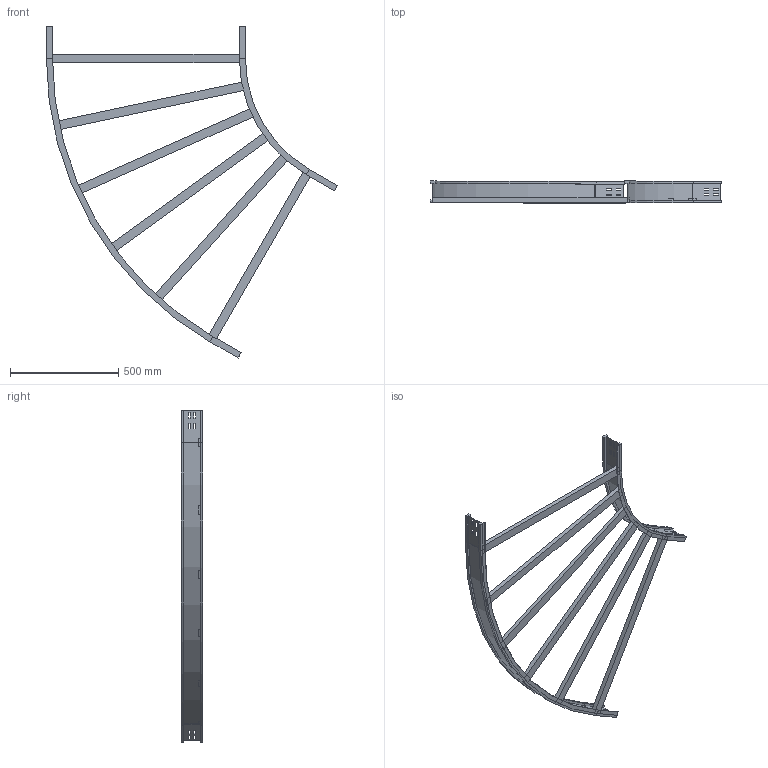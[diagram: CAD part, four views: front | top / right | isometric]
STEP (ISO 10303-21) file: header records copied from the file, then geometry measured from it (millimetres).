
FILE_DESCRIPTION (( 'STEP AP214' ), '1' );
FILE_NAME ('13S6D900.step', '2025-02-21T16:07:21', ( '' ), ( '' ), 'SwSTEP 2.0', 'SolidWorks 2023', '' );
FILE_SCHEMA (( 'AUTOMOTIVE_DESIGN' ));
Length unit declared in the file: millimetre
Products named in the file (4): LONGH.INTERNO 60°_H100_R600; LONGH.ESTERNO 60°_H100_R600+900; TRAVERSINO_900; 13S6D900
Assembly tree (8 placements, depth 2):
  13S6D900
    LONGH.INTERNO 60°_H100_R600
    LONGH.ESTERNO 60°_H100_R600+900
    TRAVERSINO_900  x6
Bounding box: 1343.4 x 100 x 1531.83 mm (x, y, z)
Volume: 5838250.7 mm3; surface area: 1488832.1 mm2
Topology: 8 solids, 8 shells, 176 faces, 432 edges, 272 vertices
Faces by surface type: plane 164, cylinder 12
Entity records: 4501 total; most frequent: CARTESIAN_POINT 761, ORIENTED_EDGE 744, DIRECTION 710, EDGE_CURVE 372, LINE 348, VECTOR 348, VERTEX_POINT 232, AXIS2_PLACEMENT_3D 181
